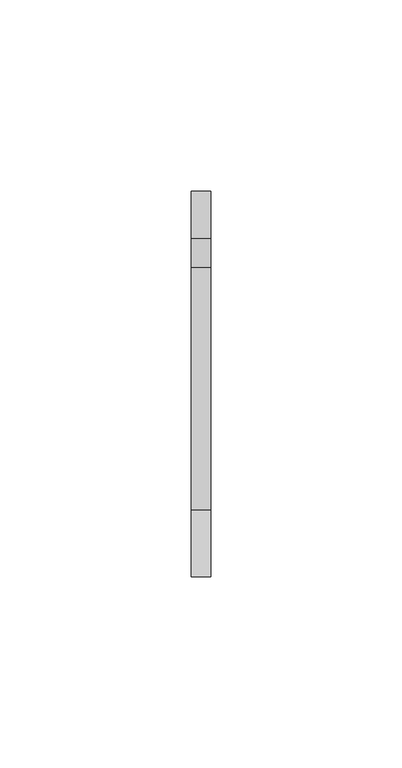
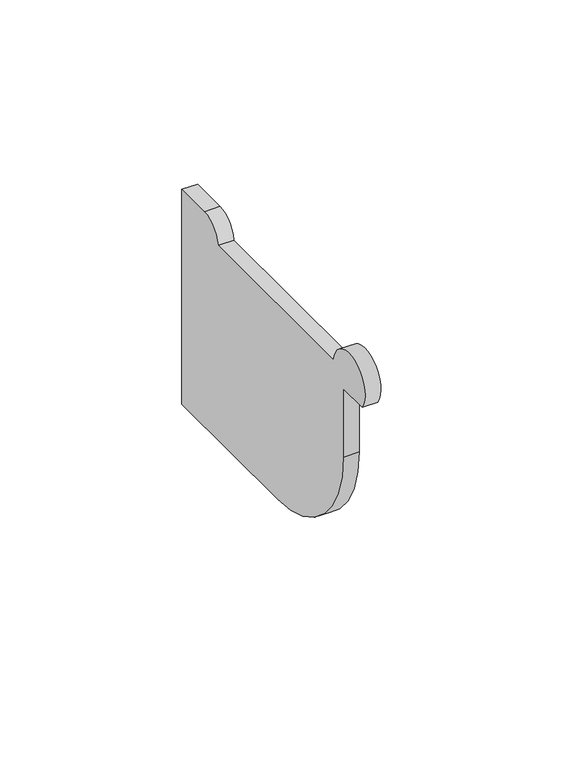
"""IFC4 building model written with IfcOpenShell, lengths in millimetres: proxy geometry, Odbojnik przyścienny rynny : Odbojnik przyścienny rynny."""

from ifc_helpers import new_model, si_unit, point, frame, frame_2d, origin, place, context, project, spatial, polyline, circle_curve, trimmed, segment, composite_curve, outline, extrude, source, transform, mapped, element, save


def generic_models_5d572d7a(model_context):
    return source(origin(), model_context, "Body", "SweptSolid", [
        extrude(outline(composite_curve([segment(polyline([(45.6832496, 56.219391), (45.6832496, -15.780609), (-7.001731, -15.780609)]), True, "CONTINUOUS"), segment(trimmed(circle_curve(frame_2d((-7.001731, 20.219391)), 36.0), [point((-7.001731, -15.780609))], [point((-43.001731, 20.219391))], False, "CARTESIAN"), True, "CONTINUOUS"), segment(polyline([(-43.001731, 20.219391), (-43.001731, 43.144391), (-53.3076805, 43.144391)]), True, "CONTINUOUS"), segment(trimmed(circle_curve(frame_2d((-46.1613736, 48.219391)), 8.7650058), [point((-53.3076805, 43.144391))], [point((-37.49331, 49.519391))], False, "CARTESIAN"), True, "CONTINUOUS"), segment(polyline([(-37.49331, 49.519391), (25.8434791, 49.519391)]), True, "CONTINUOUS"), segment(trimmed(circle_curve(frame_2d((33.4782679, 48.519391)), 7.7), [point((25.8434791, 49.519391))], [point((33.4782679, 56.219391))], False, "CARTESIAN"), True, "CONTINUOUS"), segment(polyline([(33.4782679, 56.219391), (45.6832496, 56.219391)]), True, "CONTINUOUS")], self_intersect=False)), frame((-2.5, 0.0, 0.0), z_axis=(1.0, 0.0, 0.0), x_axis=(0.0, 1.0, 0.0)), (0.0, 0.0, 1.0), 5.0),
    ])


if __name__ == "__main__":
    model = new_model("IFC4")
    model_context = context("Model", 3, world=origin())
    ifc_project = project(units=[si_unit("LENGTHUNIT", "METRE", prefix="MILLI")], contexts=[model_context])
    site = spatial("IfcSite", under=ifc_project)
    building = spatial("IfcBuilding", under=site)
    placement = place(None, origin())
    generic_models_shape = generic_models_5d572d7a(model_context)
    element("IfcBuildingElementProxy", 1, Name="Odbojnik przyścienny rynny : Odbojnik przyścienny rynny", ObjectType="Odbojnik przyścienny rynny : Odbojnik przyścienny rynny", at=placement, inside=building, context=model_context, shape_type="MappedRepresentation", body=[
        mapped(generic_models_shape, transform((0.0, 0.0, 0.0), x_axis=(1.0, 0.0, 0.0), y_axis=(0.0, 1.0, 0.0), z_axis=(0.0, 0.0, 1.0))),
    ])
    save(model, "model.ifc")
